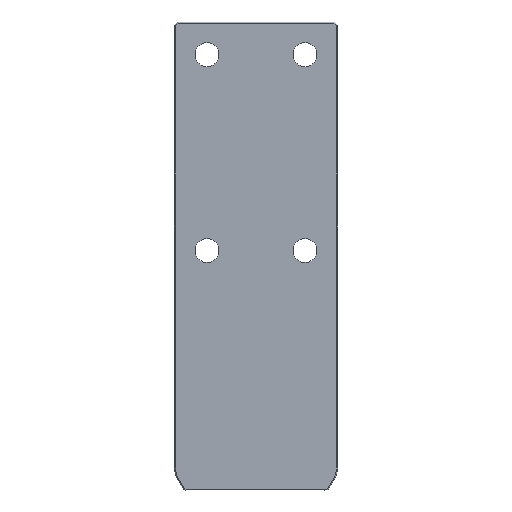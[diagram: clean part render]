
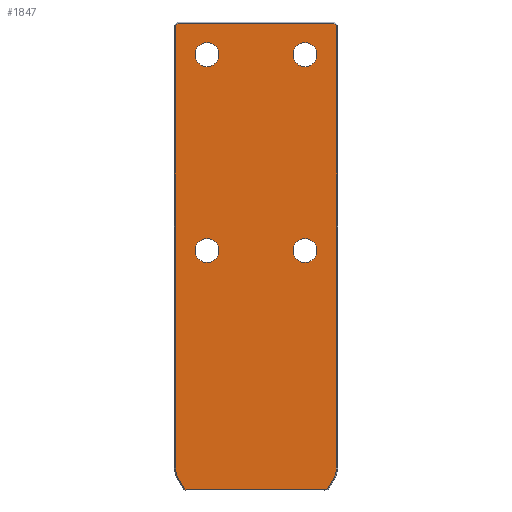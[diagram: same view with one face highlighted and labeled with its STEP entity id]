
A CAD part, front view. The second image highlights one B-rep face of the part: STEP entity #1847.
In plain terms, the highlighted planar face has unit normal (0, -1, 0).
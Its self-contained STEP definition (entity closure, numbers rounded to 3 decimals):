
#126=VERTEX_POINT(' ',#127);
#127=CARTESIAN_POINT('',(45.,-50.,-221.));
#128=VERTEX_POINT(' ',#129);
#129=CARTESIAN_POINT('',(45.,-50.,-199.));
#134=VERTEX_POINT(' ',#135);
#135=CARTESIAN_POINT('',(-45.,-50.,-41.));
#136=VERTEX_POINT(' ',#137);
#137=CARTESIAN_POINT('',(-45.,-50.,-19.));
#142=VERTEX_POINT(' ',#143);
#143=CARTESIAN_POINT('',(45.,-50.,-41.));
#144=VERTEX_POINT(' ',#145);
#145=CARTESIAN_POINT('',(45.,-50.,-19.));
#150=VERTEX_POINT(' ',#151);
#151=CARTESIAN_POINT('',(-45.,-50.,-221.));
#152=VERTEX_POINT(' ',#153);
#153=CARTESIAN_POINT('',(-45.,-50.,-199.));
#236=VERTEX_POINT(' ',#237);
#237=CARTESIAN_POINT('',(65.185,-50.,-430.));
#238=VERTEX_POINT(' ',#239);
#239=CARTESIAN_POINT('',(71.454,-50.,-419.141));
#240=VERTEX_POINT(' ',#241);
#241=CARTESIAN_POINT('',(74.,-50.,-409.641));
#242=VERTEX_POINT(' ',#243);
#243=CARTESIAN_POINT('',(74.,-50.,-240.));
#244=VERTEX_POINT(' ',#245);
#245=CARTESIAN_POINT('',(74.,-50.,-3.414));
#248=VERTEX_POINT(' ',#249);
#249=CARTESIAN_POINT('',(71.586,-50.,-1.));
#252=VERTEX_POINT(' ',#253);
#253=CARTESIAN_POINT('',(-71.586,-50.,-1.));
#256=VERTEX_POINT(' ',#257);
#257=CARTESIAN_POINT('',(-74.,-50.,-3.414));
#266=VERTEX_POINT(' ',#267);
#267=CARTESIAN_POINT('',(-65.185,-50.,-430.));
#268=VERTEX_POINT(' ',#269);
#269=CARTESIAN_POINT('',(-74.,-50.,-240.));
#270=VERTEX_POINT(' ',#271);
#271=CARTESIAN_POINT('',(-74.,-50.,-409.641));
#272=VERTEX_POINT(' ',#273);
#273=CARTESIAN_POINT('',(-71.454,-50.,-419.141));
#274=CIRCLE('',#275,11.);
#275=AXIS2_PLACEMENT_3D('',#276,#277,#278);
#276=CARTESIAN_POINT('',(45.,-50.,-210.));
#277=DIRECTION('',(0.,-1.,0.));
#278=DIRECTION('',(-1.,0.,0.));
#279=EDGE_CURVE(' ',#126,#128,#274,.T.);
#296=CIRCLE('',#297,11.);
#297=AXIS2_PLACEMENT_3D('',#298,#299,#300);
#298=CARTESIAN_POINT('',(45.,-50.,-210.));
#299=DIRECTION('',(0.,-1.,0.));
#300=DIRECTION('',(1.,0.,0.));
#301=EDGE_CURVE(' ',#128,#126,#296,.T.);
#308=CIRCLE('',#309,11.);
#309=AXIS2_PLACEMENT_3D('',#310,#311,#312);
#310=CARTESIAN_POINT('',(-45.,-50.,-30.));
#311=DIRECTION('',(0.,-1.,0.));
#312=DIRECTION('',(-1.,0.,0.));
#313=EDGE_CURVE(' ',#134,#136,#308,.T.);
#330=CIRCLE('',#331,11.);
#331=AXIS2_PLACEMENT_3D('',#332,#333,#334);
#332=CARTESIAN_POINT('',(-45.,-50.,-30.));
#333=DIRECTION('',(0.,-1.,0.));
#334=DIRECTION('',(1.,0.,0.));
#335=EDGE_CURVE(' ',#136,#134,#330,.T.);
#342=CIRCLE('',#343,11.);
#343=AXIS2_PLACEMENT_3D('',#344,#345,#346);
#344=CARTESIAN_POINT('',(45.,-50.,-30.));
#345=DIRECTION('',(0.,1.,0.));
#346=DIRECTION('',(-1.,0.,0.));
#347=EDGE_CURVE(' ',#142,#144,#342,.F.);
#364=CIRCLE('',#365,11.);
#365=AXIS2_PLACEMENT_3D('',#366,#367,#368);
#366=CARTESIAN_POINT('',(45.,-50.,-30.));
#367=DIRECTION('',(0.,1.,0.));
#368=DIRECTION('',(1.,0.,0.));
#369=EDGE_CURVE(' ',#144,#142,#364,.F.);
#376=CIRCLE('',#377,11.);
#377=AXIS2_PLACEMENT_3D('',#378,#379,#380);
#378=CARTESIAN_POINT('',(-45.,-50.,-210.));
#379=DIRECTION('',(0.,1.,0.));
#380=DIRECTION('',(-1.,0.,0.));
#381=EDGE_CURVE(' ',#150,#152,#376,.F.);
#398=CIRCLE('',#399,11.);
#399=AXIS2_PLACEMENT_3D('',#400,#401,#402);
#400=CARTESIAN_POINT('',(-45.,-50.,-210.));
#401=DIRECTION('',(0.,1.,0.));
#402=DIRECTION('',(1.,0.,0.));
#403=EDGE_CURVE(' ',#152,#150,#398,.F.);
#795=LINE('',#796,#797);
#796=CARTESIAN_POINT('',(71.454,-50.,-419.141));
#797=VECTOR('',#798,1.);
#798=DIRECTION('',(-0.5,0.,-0.866));
#799=EDGE_CURVE(' ',#238,#236,#795,.T.);
#805=CIRCLE('',#806,19.);
#806=AXIS2_PLACEMENT_3D('',#807,#808,#809);
#807=CARTESIAN_POINT('',(55.,-50.,-409.641));
#808=DIRECTION('',(0.,1.,0.));
#809=DIRECTION('',(-0.966,0.,0.259));
#810=EDGE_CURVE(' ',#240,#238,#805,.T.);
#816=LINE('',#817,#818);
#817=CARTESIAN_POINT('',(74.,-50.,-240.));
#818=VECTOR('',#819,1.);
#819=DIRECTION('',(0.,0.,-1.));
#820=EDGE_CURVE(' ',#242,#240,#816,.T.);
#826=LINE('',#827,#828);
#827=CARTESIAN_POINT('',(74.,-50.,2.657));
#828=VECTOR('',#829,1.);
#829=DIRECTION('',(0.,0.,-1.));
#830=EDGE_CURVE(' ',#244,#242,#826,.T.);
#846=LINE('',#847,#848);
#847=CARTESIAN_POINT('',(67.293,-50.,3.293));
#848=VECTOR('',#849,1.);
#849=DIRECTION('',(0.707,0.,-0.707));
#850=EDGE_CURVE(' ',#248,#244,#846,.T.);
#866=LINE('',#867,#868);
#867=CARTESIAN_POINT('',(-77.657,-50.,-1.));
#868=VECTOR('',#869,1.);
#869=DIRECTION('',(1.,0.,0.));
#870=EDGE_CURVE(' ',#252,#248,#866,.T.);
#886=LINE('',#887,#888);
#887=CARTESIAN_POINT('',(-78.293,-50.,-7.707));
#888=VECTOR('',#889,1.);
#889=DIRECTION('',(0.707,0.,0.707));
#890=EDGE_CURVE(' ',#256,#252,#886,.T.);
#937=LINE('',#938,#939);
#938=CARTESIAN_POINT('',(-75.12,-50.,-430.));
#939=VECTOR('',#940,1.);
#940=DIRECTION('',(1.,0.,0.));
#941=EDGE_CURVE(' ',#236,#266,#937,.F.);
#942=LINE('',#943,#944);
#943=CARTESIAN_POINT('',(-74.,-50.,-240.));
#944=VECTOR('',#945,1.);
#945=DIRECTION('',(0.,0.,1.));
#946=EDGE_CURVE(' ',#268,#256,#942,.T.);
#947=LINE('',#948,#949);
#948=CARTESIAN_POINT('',(-74.,-50.,-409.641));
#949=VECTOR('',#950,1.);
#950=DIRECTION('',(0.,0.,1.));
#951=EDGE_CURVE(' ',#270,#268,#947,.T.);
#952=CIRCLE('',#953,19.);
#953=AXIS2_PLACEMENT_3D('',#954,#955,#956);
#954=CARTESIAN_POINT('',(-55.,-50.,-409.641));
#955=DIRECTION('',(0.,1.,0.));
#956=DIRECTION('',(0.966,0.,0.259));
#957=EDGE_CURVE(' ',#272,#270,#952,.T.);
#958=LINE('',#959,#960);
#959=CARTESIAN_POINT('',(-62.645,-50.,-434.399));
#960=VECTOR('',#961,1.);
#961=DIRECTION('',(-0.5,0.,0.866));
#962=EDGE_CURVE(' ',#266,#272,#958,.T.);
#1812=ORIENTED_EDGE('',*,*,#946,.F.);
#1813=ORIENTED_EDGE('',*,*,#951,.F.);
#1814=ORIENTED_EDGE('',*,*,#957,.F.);
#1815=ORIENTED_EDGE('',*,*,#962,.F.);
#1816=ORIENTED_EDGE('',*,*,#941,.F.);
#1817=ORIENTED_EDGE('',*,*,#799,.F.);
#1818=ORIENTED_EDGE('',*,*,#810,.F.);
#1819=ORIENTED_EDGE('',*,*,#820,.F.);
#1820=ORIENTED_EDGE('',*,*,#830,.F.);
#1821=ORIENTED_EDGE('',*,*,#850,.F.);
#1822=ORIENTED_EDGE('',*,*,#870,.F.);
#1823=ORIENTED_EDGE('',*,*,#890,.F.);
#1824=EDGE_LOOP('',(#1812,#1813,#1814,#1815,#1816,#1817,#1818,#1819,#1820,#1821,#1822,#1823));
#1825=FACE_OUTER_BOUND('',#1824,.T.);
#1826=ORIENTED_EDGE('',*,*,#403,.F.);
#1827=ORIENTED_EDGE('',*,*,#381,.F.);
#1828=EDGE_LOOP('',(#1826,#1827));
#1829=FACE_BOUND('',#1828,.T.);
#1830=ORIENTED_EDGE('',*,*,#369,.F.);
#1831=ORIENTED_EDGE('',*,*,#347,.F.);
#1832=EDGE_LOOP('',(#1830,#1831));
#1833=FACE_BOUND('',#1832,.T.);
#1834=ORIENTED_EDGE('',*,*,#335,.F.);
#1835=ORIENTED_EDGE('',*,*,#313,.F.);
#1836=EDGE_LOOP('',(#1834,#1835));
#1837=FACE_BOUND('',#1836,.T.);
#1838=ORIENTED_EDGE('',*,*,#301,.F.);
#1839=ORIENTED_EDGE('',*,*,#279,.F.);
#1840=EDGE_LOOP('',(#1838,#1839));
#1841=FACE_BOUND('',#1840,.T.);
#1842=PLANE('',#1843);
#1843=AXIS2_PLACEMENT_3D('',#1844,#1845,#1846);
#1844=CARTESIAN_POINT('',(0.,-50.,0.));
#1845=DIRECTION('',(0.,-1.,0.));
#1846=DIRECTION('',(0.,0.,-1.));
#1847=ADVANCED_FACE('',(#1825,#1829,#1833,#1837,#1841),#1842,.T.);
